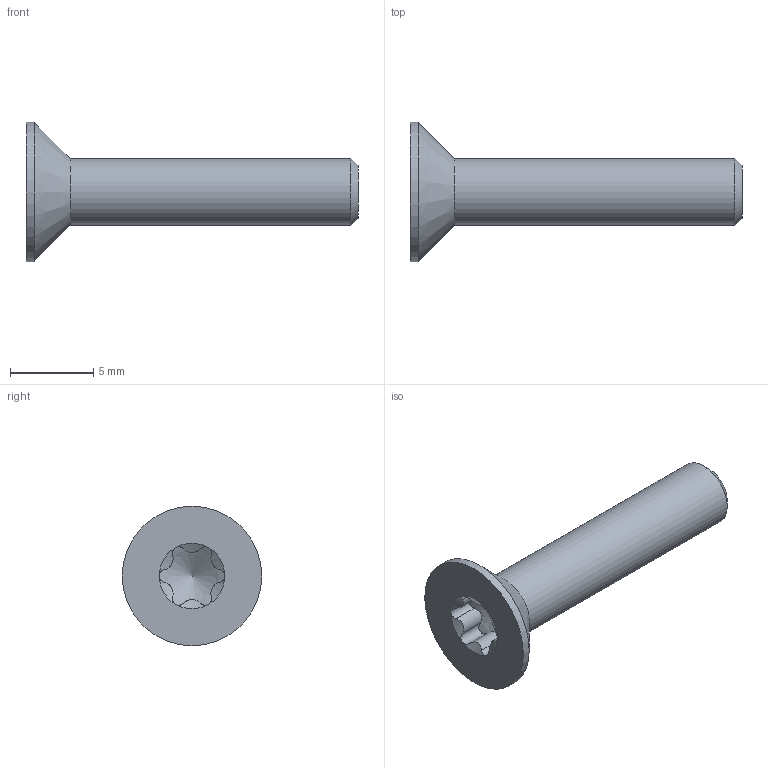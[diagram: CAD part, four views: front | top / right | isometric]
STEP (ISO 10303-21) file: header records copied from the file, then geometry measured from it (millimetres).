
FILE_DESCRIPTION(/* description */ ('BN 3803-Hexalobular (6 Lobe) socket countersunk flat head screws, fully threaded (ISO 14581), stainless steel A2'),/* implementation_level */ '2;1');
FILE_NAME(/* name */ 'C:\ADSK_DMS_WS\Designs\Vorschläge\Loc Schalen\Schraubenlängebestimmung\Schrauben\M4x20 Senkkopfschraube 90°mit TX20 A2.stp',/* time_stamp */ '2021-10-05T14:04:22+02:00',/* author */ ('gm'),/* organization */ ('BOSSARD'),/* preprocessor_version */ 'ST-DEVELOPER v16.5',/* originating_system */ 'Autodesk Inventor 2017',/* authorisation */ '');
FILE_SCHEMA (('AUTOMOTIVE_DESIGN { 1 0 10303 214 3 1 1 }'));
Length unit declared in the file: millimetre
Products named in the file (1): BN 3803  M4x20_INOX A2
Bounding box: 20 x 8.4 x 8.4 mm (x, y, z)
Volume: 294.9 mm3; surface area: 377.8 mm2
Topology: 1 solids, 1 shells, 31 faces, 83 edges, 54 vertices
Faces by surface type: cylinder 14, cone 9, plane 8
Full cylindrical faces by diameter (mm): 4 x1, 8.4 x1
Entity records: 1204 total; most frequent: CARTESIAN_POINT 492, ORIENTED_EDGE 154, DIRECTION 122, EDGE_CURVE 77, AXIS2_PLACEMENT_3D 55, VERTEX_POINT 53, B_SPLINE_CURVE_WITH_KNOTS 42, EDGE_LOOP 36
